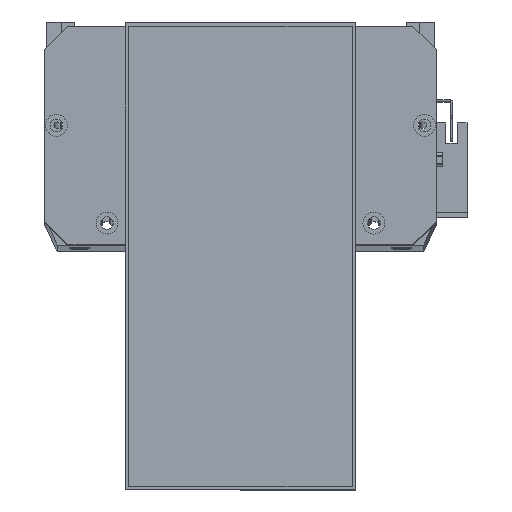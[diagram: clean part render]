
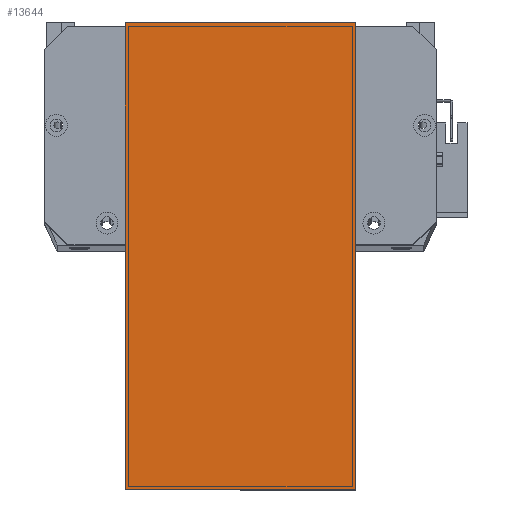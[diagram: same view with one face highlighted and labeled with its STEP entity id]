
A CAD part, top view. The second image highlights one B-rep face of the part: STEP entity #13644.
In plain terms, the highlighted planar face has unit normal (0, 0, 1) as drawn and (0, 0, -1) by its records, which use the part's own axes.
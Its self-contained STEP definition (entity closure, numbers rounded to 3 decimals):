
#142 = EDGE_CURVE ( 'NONE', #20083, #18605, #14974, .T. ) ;
#499 = LINE ( 'NONE', #4852, #17750 ) ;
#2506 = VECTOR ( 'NONE', #5865, 1000. ) ;
#3915 = CARTESIAN_POINT ( 'NONE',  ( 203., 19.5, 0. ) ) ;
#3926 = FACE_OUTER_BOUND ( 'NONE', #16552, .T. ) ;
#4852 = CARTESIAN_POINT ( 'NONE',  ( 0., 0., 0. ) ) ;
#5375 = DIRECTION ( 'NONE',  ( 0., 0., -1. ) ) ;
#5865 = DIRECTION ( 'NONE',  ( 0., 1., 0. ) ) ;
#6692 = EDGE_CURVE ( 'NONE', #28136, #21807, #499, .T. ) ;
#7930 = ORIENTED_EDGE ( 'NONE', *, *, #6692, .F. ) ;
#8081 = AXIS2_PLACEMENT_3D ( 'NONE', #24039, #5375, #21802 ) ;
#8825 = LINE ( 'NONE', #29879, #19835 ) ;
#10460 = LINE ( 'NONE', #17538, #22215 ) ;
#13538 = DIRECTION ( 'NONE',  ( 1., 0., 0. ) ) ;
#13644 = ADVANCED_FACE ( 'NONE', ( #3926 ), #19435, .T. ) ;
#14229 = ORIENTED_EDGE ( 'NONE', *, *, #16388, .F. ) ;
#14974 = LINE ( 'NONE', #25370, #2506 ) ;
#16388 = EDGE_CURVE ( 'NONE', #21807, #20083, #10460, .T. ) ;
#16552 = EDGE_LOOP ( 'NONE', ( #14229, #7930, #26221, #20334 ) ) ;
#17364 = CARTESIAN_POINT ( 'NONE',  ( 0., 119.5, 0. ) ) ;
#17538 = CARTESIAN_POINT ( 'NONE',  ( -12., 19.5, 0. ) ) ;
#17750 = VECTOR ( 'NONE', #28253, 1000. ) ;
#18605 = VERTEX_POINT ( 'NONE', #29031 ) ;
#19435 = PLANE ( 'NONE',  #8081 ) ;
#19835 = VECTOR ( 'NONE', #13538, 1000. ) ;
#20083 = VERTEX_POINT ( 'NONE', #3915 ) ;
#20334 = ORIENTED_EDGE ( 'NONE', *, *, #142, .F. ) ;
#21802 = DIRECTION ( 'NONE',  ( -1., 0., 0. ) ) ;
#21807 = VERTEX_POINT ( 'NONE', #25150 ) ;
#22215 = VECTOR ( 'NONE', #24505, 1000. ) ;
#22798 = EDGE_CURVE ( 'NONE', #28136, #18605, #8825, .T. ) ;
#24039 = CARTESIAN_POINT ( 'NONE',  ( 0., 0., 0. ) ) ;
#24505 = DIRECTION ( 'NONE',  ( 1., 0., 0. ) ) ;
#25150 = CARTESIAN_POINT ( 'NONE',  ( 0., 19.5, 0. ) ) ;
#25370 = CARTESIAN_POINT ( 'NONE',  ( 203., 0., 0. ) ) ;
#26221 = ORIENTED_EDGE ( 'NONE', *, *, #22798, .T. ) ;
#28136 = VERTEX_POINT ( 'NONE', #17364 ) ;
#28253 = DIRECTION ( 'NONE',  ( 0., -1., 0. ) ) ;
#29031 = CARTESIAN_POINT ( 'NONE',  ( 203., 119.5, 0. ) ) ;
#29879 = CARTESIAN_POINT ( 'NONE',  ( -12., 119.5, 0. ) ) ;
